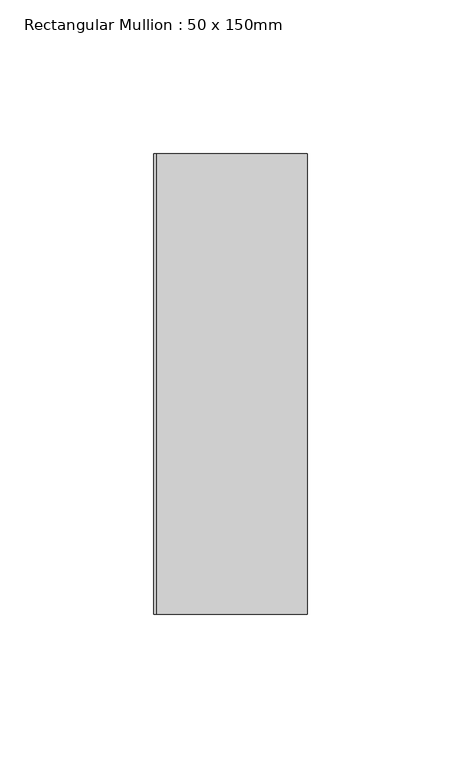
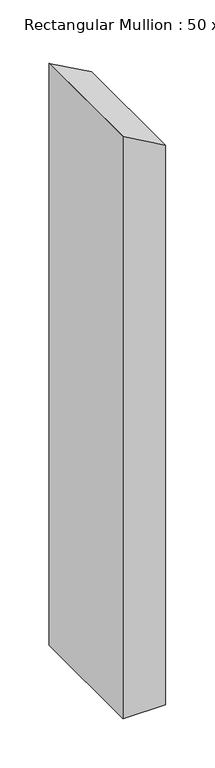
"""IFC4 building model written with IfcOpenShell, lengths in millimetres: member geometry, Rectangular Mullion : 50 x 150mm."""

from ifc_helpers import new_model, si_unit, frame, origin, place, context, project, spatial, polyline, outline, extrude, source, transform, mapped, element, save


def rectangular_mullion_50_x_150mm_43798e7d(model_context):
    return source(origin(), model_context, "Body", "SweptSolid", [
        extrude(outline(polyline([(-71.0602038, 25.0), (-43.9118443, -23.9146329), (-43.3319477, -25.0), (-764.2905258, -25.0), (-764.2905258, 25.0), (-71.0602038, 25.0)])), frame((0.0, -75.0, 0.0), z_axis=(0.0, 1.0, 0.0), x_axis=(0.0, 0.0, 1.0)), (0.0, 0.0, 1.0), 150.0),
    ])


if __name__ == "__main__":
    model = new_model("IFC4")
    model_context = context("Model", 3, world=origin())
    ifc_project = project(units=[si_unit("LENGTHUNIT", "METRE", prefix="MILLI")], contexts=[model_context])
    site = spatial("IfcSite", under=ifc_project)
    building = spatial("IfcBuilding", under=site)
    placement = place(None, origin())
    rectangular_mullion_50_x_150mm_shape = rectangular_mullion_50_x_150mm_43798e7d(model_context)
    element("IfcMember", 1, ObjectType="Rectangular Mullion : 50 x 150mm", at=placement, inside=building, context=model_context, shape_type="MappedRepresentation", body=[
        mapped(rectangular_mullion_50_x_150mm_shape, transform((0.0, 0.0, 0.0), x_axis=(1.0, 0.0, 0.0), y_axis=(0.0, 1.0, 0.0), z_axis=(0.0, 0.0, 1.0))),
    ])
    save(model, "model.ifc")
